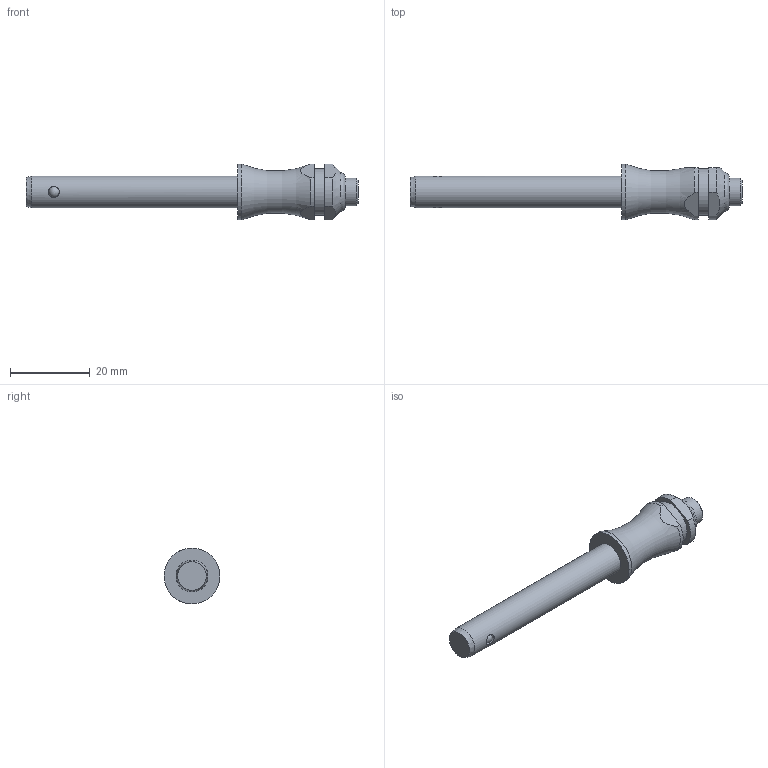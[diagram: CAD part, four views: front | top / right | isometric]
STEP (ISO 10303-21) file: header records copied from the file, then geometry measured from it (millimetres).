
FILE_DESCRIPTION( ( 'STEP AP203' ), '1' );
FILE_NAME( 'C:/Temp/Ganter_Step_05_03_2020/data/3_1/gn113_3/Stainless Steel-Ball lock pin GN 113.3-8-45 (activated).stp', '2020-03-12T08:18:26', ( 'License CC BY-ND 4.0' ), ( 'CADENAS' ), ' ', 'PARTsolutions', ' ' );
FILE_SCHEMA( ( 'CONFIG_CONTROL_DESIGN' ) );
Length unit declared in the file: millimetre
Products named in the file (1): _Stainless Steel-Ball lock pin GN 113.3-8-45 (activated)
Bounding box: 83.35 x 14 x 14 mm (x, y, z)
Volume: 5763.3 mm3; surface area: 2754.6 mm2
Topology: 1 solids, 1 shells, 30 faces, 72 edges, 45 vertices
Faces by surface type: cylinder 12, plane 11, cone 3, torus 2, sphere 2
Full cylindrical faces by diameter (mm): 2.78 x2, 7 x1, 8 x1, 11.6 x1, 14 x1
Entity records: 968 total; most frequent: CARTESIAN_POINT 321, DIRECTION 130, ORIENTED_EDGE 102, AXIS2_PLACEMENT_3D 56, EDGE_CURVE 51, EDGE_LOOP 46, VERTEX_POINT 39, FACE_OUTER_BOUND 38
